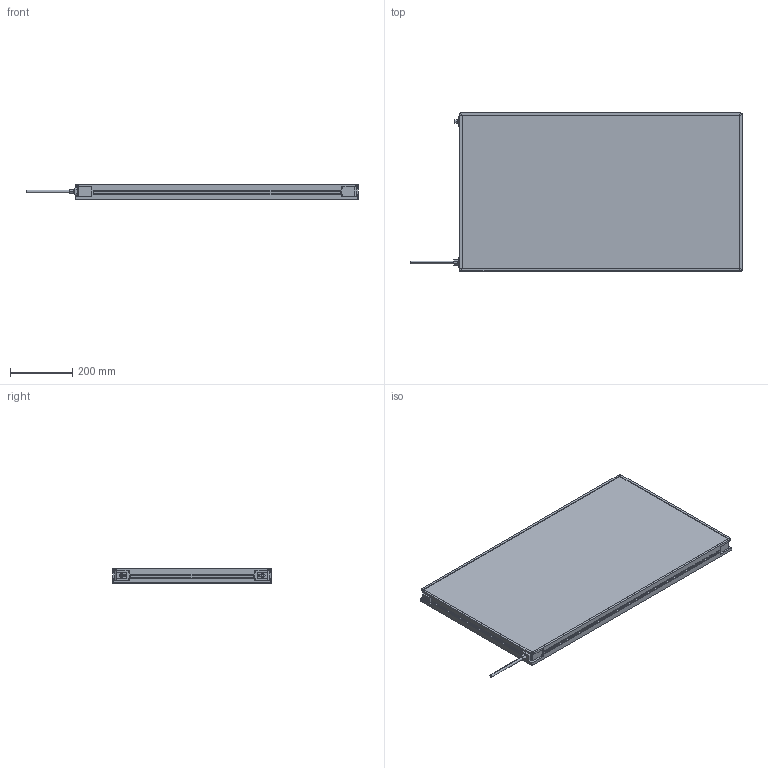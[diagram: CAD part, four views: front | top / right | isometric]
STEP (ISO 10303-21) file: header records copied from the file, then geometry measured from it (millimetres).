
FILE_DESCRIPTION (( 'STEP AP214' ), '1' );
FILE_NAME ('MBACK-xxxx-xxx-M1A2_CLIENT500x900.STEP', '2022-04-01T11:44:26', ( '' ), ( '' ), 'SwSTEP 2.0', 'SolidWorks 2020', '' );
FILE_SCHEMA (( 'AUTOMOTIVE_DESIGN' ));
Length unit declared in the file: millimetre
Products named in the file (1): MBACK-xxxx-xxx-M1A2_CLIENT500x900
Bounding box: 1067.4 x 508 x 45.5 mm (x, y, z)
Volume: 19196773 mm3; surface area: 1116517 mm2
Topology: 1 solids, 1 shells, 470 faces, 1210 edges, 804 vertices
Faces by surface type: plane 265, cylinder 117, bspline 80, cone 8
Entity records: 18046 total; most frequent: CARTESIAN_POINT 6837, ORIENTED_EDGE 2420, DIRECTION 2082, EDGE_CURVE 1210, VERTEX_POINT 804, LINE 800, VECTOR 800, AXIS2_PLACEMENT_3D 641
